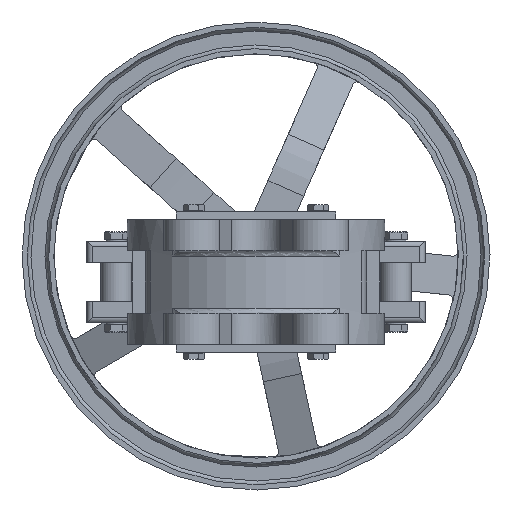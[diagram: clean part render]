
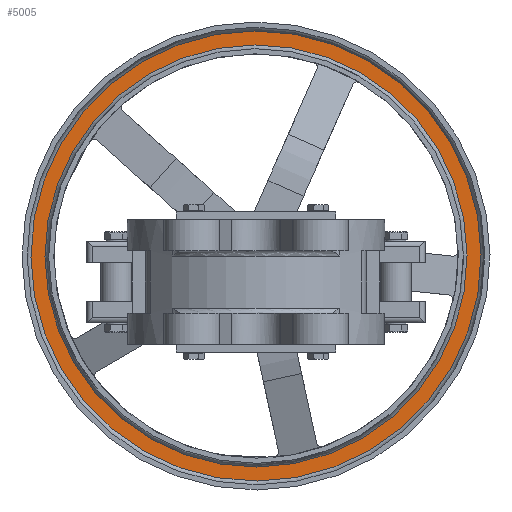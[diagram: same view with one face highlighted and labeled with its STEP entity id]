
A CAD part, front view. The second image highlights one B-rep face of the part: STEP entity #5005.
In plain terms, the highlighted planar face has unit normal (0, -1, 0).
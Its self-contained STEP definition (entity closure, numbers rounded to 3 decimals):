
#5005=ADVANCED_FACE('',(#12895,#12897),#12899,.F.);
#12895=FACE_BOUND('',#12896,.T.);
#12896=EDGE_LOOP('',(#16875));
#12897=FACE_BOUND('',#12898,.T.);
#12898=EDGE_LOOP('',(#16876));
#12899=PLANE('',#12900);
#12900=AXIS2_PLACEMENT_3D('',#12901,#12902,#12903);
#12901=CARTESIAN_POINT('',(-69.534,256.,-30.583));
#12902=DIRECTION('',(0.,1.,0.));
#12903=DIRECTION('',(0.864,0.,0.504));
#16875=ORIENTED_EDGE('',*,*,#19108,.F.);
#16876=ORIENTED_EDGE('',*,*,#19025,.T.);
#19025=EDGE_CURVE('',#22049,#22049,#22050,.T.);
#19108=EDGE_CURVE('',#22195,#22195,#22196,.F.);
#22049=VERTEX_POINT('',#41126);
#22050=CIRCLE('',#41127,81.171);
#22195=VERTEX_POINT('',#41461);
#22196=CIRCLE('',#41462,86.562);
#41126=CARTESIAN_POINT('',(-70.105,256.,-30.916));
#41127=AXIS2_PLACEMENT_3D('',#41128,#41129,#41130);
#41128=CARTESIAN_POINT('',(0.,256.,10.));
#41129=DIRECTION('',(0.,1.,0.));
#41130=DIRECTION('',(-0.864,0.,-0.504));
#41461=CARTESIAN_POINT('',(-74.761,256.,-33.634));
#41462=AXIS2_PLACEMENT_3D('',#41463,#41464,#41465);
#41463=CARTESIAN_POINT('',(0.,256.,10.));
#41464=DIRECTION('',(0.,-1.,0.));
#41465=DIRECTION('',(-0.864,0.,-0.504));
